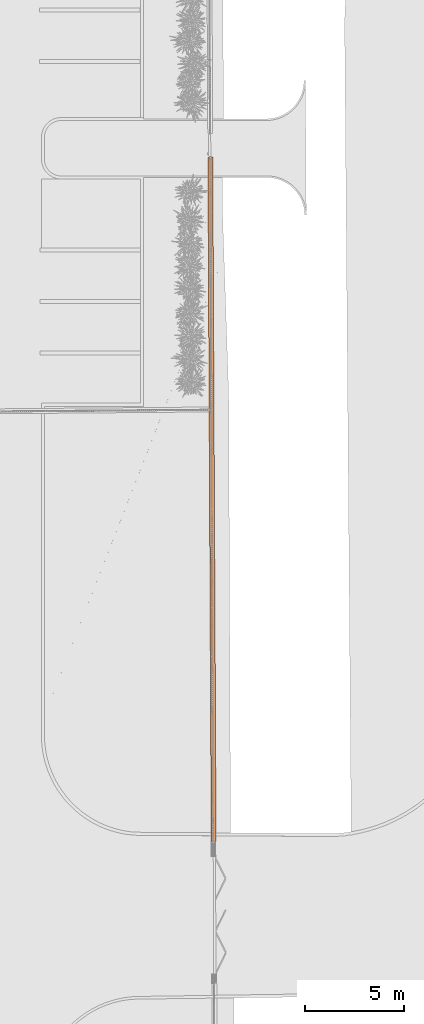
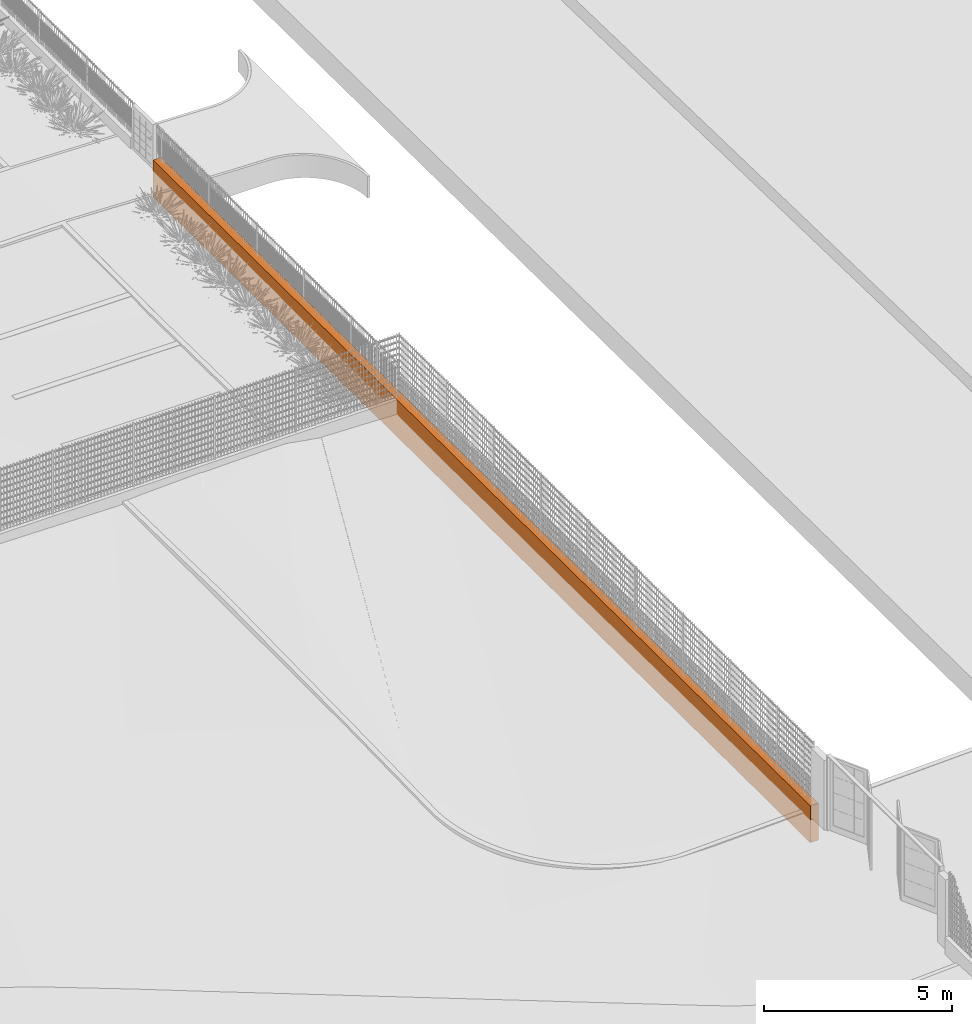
# One storey, part 16 of 1809: 1 proxy.
"""IFC2X3 building model written with IfcOpenShell, lengths in millimetres."""

import ifcopenshell
import ifcopenshell.guid

model = None  # the IFC model being written
_history = None  # IfcOwnerHistory: only IFC2X3 demands one
_inside = {}  # id of a spatial element -> (the spatial element, [elements in it])
_under = {}  # id of a project, library or spatial element -> (it, [spatial elements below it])
_declared = {}  # id of a project -> (the project, [libraries it declares])
_typed = {}  # id of a type object -> (the type object, [elements of that type])
_made_of = {}  # id of a material, layer set ... -> (it, [elements and type objects made of it])


def new_model(schema):
    """Start an empty IFC model of exactly this schema.

    Asked for "IFC4X3", IfcOpenShell would pick the latest addendum, in which some entities
    have other attributes; the version numbers below select the first issue.
    IFC2X3 requires an IfcOwnerHistory on every rooted entity: one is made here for all.
    """
    global model, _history
    if schema == "IFC4X3":
        model = ifcopenshell.file(schema_version=(4, 3, 0, 0))
    else:
        model = ifcopenshell.file(schema=schema)
    _inside.clear()
    _under.clear()
    _declared.clear()
    _typed.clear()
    _made_of.clear()
    _history = None
    if model.schema == "IFC2X3":
        org = make("IfcOrganization", Name="unknown")
        user = make(
            "IfcPersonAndOrganization",
            ThePerson=make("IfcPerson", FamilyName="unknown"),
            TheOrganization=org,
        )
        app = make(
            "IfcApplication",
            ApplicationDeveloper=org,
            Version="unknown",
            ApplicationFullName="unknown",
            ApplicationIdentifier="unknown",
        )
        _history = make(
            "IfcOwnerHistory",
            OwningUser=user,
            OwningApplication=app,
            ChangeAction="ADDED",
            CreationDate=0,
        )
    return model


def make(cls, **values):
    """One entity of the class cls with the attributes given. An attribute that is None is left unset."""
    return model.create_entity(
        cls, **{name: value for name, value in values.items() if value is not None}
    )


def entity(cls, *values):
    """Any entity or typed value of the class cls, its attributes in the order of the schema. None: left unset."""
    e = model.create_entity(cls)
    for i, value in enumerate(values):
        if value is not None:
            e[i] = value
    return e


def rooted(cls, **values):
    """An entity with a GlobalId (a new one), such as an element, a storey or a relation."""
    return make(cls, GlobalId=ifcopenshell.guid.new(), OwnerHistory=_history, **values)


def si_unit(unit_type, name, prefix=None):
    """IfcSIUnit, for example si_unit("LENGTHUNIT", "METRE", prefix="MILLI")."""
    return make("IfcSIUnit", UnitType=unit_type, Prefix=prefix, Name=name)


def converted_unit(unit_type, name, factor, base, dimensions=None, offset=None):
    """IfcConversionBasedUnit, such as the inch: factor (a typed value) times the base unit."""
    return make(
        "IfcConversionBasedUnit"
        if offset is None
        else "IfcConversionBasedUnitWithOffset",
        ConversionOffset=offset,
        Dimensions=None
        if dimensions is None
        else entity("IfcDimensionalExponents", *dimensions),
        UnitType=unit_type,
        Name=name,
        ConversionFactor=make(
            "IfcMeasureWithUnit", ValueComponent=factor, UnitComponent=base
        ),
    )


def derived_unit(unit_type, elements):
    """IfcDerivedUnit: a product of units, each with its exponent."""
    return make(
        "IfcDerivedUnit",
        Elements=[
            make("IfcDerivedUnitElement", Unit=unit, Exponent=power)
            for unit, power in elements
        ],
        UnitType=unit_type,
    )


def money_unit(currency):
    """IfcMonetaryUnit."""
    return make("IfcMonetaryUnit", Currency=currency)


def assignment(units):
    """IfcUnitAssignment: the units of a project."""
    return None if units is None else make("IfcUnitAssignment", Units=units)


def point(xyz):
    """IfcCartesianPoint."""
    return None if xyz is None else make("IfcCartesianPoint", Coordinates=xyz)


def direction(xyz):
    """IfcDirection."""
    return None if xyz is None else make("IfcDirection", DirectionRatios=xyz)


def frame(location, z_axis=None, x_axis=None):
    """IfcAxis2Placement3D, a coordinate frame: its origin and axes. An axis left out is left unset."""
    return make(
        "IfcAxis2Placement3D",
        Location=point(location),
        Axis=direction(z_axis),
        RefDirection=direction(x_axis),
    )


def origin_with_axes():
    """The frame at (0, 0, 0) with the z axis (0, 0, 1) and the x axis (1, 0, 0) written out."""
    return frame((0.0, 0.0, 0.0), z_axis=(0.0, 0.0, 1.0), x_axis=(1.0, 0.0, 0.0))


def place(relative_to, where):
    """IfcLocalPlacement: puts the frame where relative to a parent placement (None: the world)."""
    return make(
        "IfcLocalPlacement", PlacementRelTo=relative_to, RelativePlacement=where
    )


def context(
    kind, dimensions, precision=None, world=None, true_north=None, identifier=None
):
    """IfcGeometricRepresentationContext, for example the 3D "Model" context."""
    return make(
        "IfcGeometricRepresentationContext",
        ContextIdentifier=identifier,
        ContextType=kind,
        CoordinateSpaceDimension=dimensions,
        Precision=precision,
        WorldCoordinateSystem=world,
        TrueNorth=true_north,
    )


def subcontext(parent, identifier, kind, view, scale=None):
    """IfcGeometricRepresentationSubContext, for example "Body" below "Model"."""
    return make(
        "IfcGeometricRepresentationSubContext",
        ContextIdentifier=identifier,
        ContextType=kind,
        ParentContext=parent,
        TargetScale=scale,
        TargetView=view,
    )


def project(units=None, contexts=None):
    """IfcProject with its units and contexts."""
    return rooted(
        "IfcProject",
        Name="project",
        RepresentationContexts=contexts,
        UnitsInContext=assignment(units),
    )


def spatial(cls, under=None, at=None, **own):
    """A site, building, storey or space (cls), placed at a placement, below another one or the project."""
    s = rooted(cls, ObjectPlacement=at, **own)
    if under is not None:
        _under.setdefault(under.id(), (under, []))[1].append(s)
    return s


def polyline(points):
    """IfcPolyline through the points."""
    return make("IfcPolyline", Points=[point(p) for p in points])


def outline(outer, holes=None, kind="AREA"):
    """IfcArbitraryClosedProfileDef: a profile drawn as a closed curve; with holes, ...WithVoids."""
    if holes is None:
        return make("IfcArbitraryClosedProfileDef", ProfileType=kind, OuterCurve=outer)
    return make(
        "IfcArbitraryProfileDefWithVoids",
        ProfileType=kind,
        OuterCurve=outer,
        InnerCurves=holes,
    )


def extrude(swept, where, along, depth):
    """IfcExtrudedAreaSolid: the profile swept, set in the frame where, extruded along a direction by depth."""
    return make(
        "IfcExtrudedAreaSolid",
        SweptArea=swept,
        Position=where,
        ExtrudedDirection=direction(along),
        Depth=depth,
    )


def shape(context_of_items, identifier, shape_type, items):
    """IfcShapeRepresentation: the items that make up one representation, for example the "Body"."""
    return make(
        "IfcShapeRepresentation",
        ContextOfItems=context_of_items,
        RepresentationIdentifier=identifier,
        RepresentationType=shape_type,
        Items=items,
    )


def material(Name=None, Category=None):
    """IfcMaterial."""
    return make("IfcMaterial", Name=Name, Category=Category)


def made_of(thing, what):
    """Note that an element or type object is made of a material, layer set ...; save() writes the relation."""
    if what is not None:
        _made_of.setdefault(what.id(), (what, []))[1].append(thing)
    return thing


def type_object(cls, material=None, **own):
    """A type object (cls), such as IfcWallType, which elements share."""
    return made_of(rooted(cls, **own), material)


def element(
    cls,
    number,
    at=None,
    inside=None,
    cuts=None,
    type_object=None,
    material=None,
    context=None,
    identifier="Body",
    shape_type=None,
    held_by="IfcProductDefinitionShape",
    body=None,
    shapes=None,
    **own,
):
    """One element of the class cls, such as IfcWall. Its Tag is "e" and its number.

    at: its placement. inside: the storey or other place that contains it. cuts: it is an
    opening in that element (IfcRelVoidsElement). A single representation is given by context,
    identifier, shape_type and body (its items); several are given by shapes. held_by: the class
    of the entity that holds the representations. save() writes the other relations.
    """
    e = rooted(cls, Tag="e%d" % number, ObjectPlacement=at, **own)
    if body is not None:
        shapes = [shape(context, identifier, shape_type, body)]
    if shapes is not None:
        e.Representation = make(held_by, Representations=shapes)
    if inside is not None:
        _inside.setdefault(inside.id(), (inside, []))[1].append(e)
    if cuts is not None:
        rooted(
            "IfcRelVoidsElement", RelatingBuildingElement=cuts, RelatedOpeningElement=e
        )
    if type_object is not None:
        _typed.setdefault(type_object.id(), (type_object, []))[1].append(e)
    return made_of(e, material)


def aggregate(whole, parts):
    """IfcRelAggregates: a whole, such as a stair, and the parts it consists of."""
    return rooted("IfcRelAggregates", RelatingObject=whole, RelatedObjects=parts)


def save(model, path):
    """Write the relations noted so far, then the file.

    IfcRelAggregates (storeys below a building ...), IfcRelContainedInSpatialStructure (elements
    in a storey), IfcRelDefinesByType, IfcRelAssociatesMaterial and IfcRelDeclares: one each for
    every whole, place, type object, material and project.
    """
    for whole, parts in _under.values():
        aggregate(whole, parts)
    for where, things in _inside.values():
        rooted(
            "IfcRelContainedInSpatialStructure",
            RelatedElements=things,
            RelatingStructure=where,
        )
    for kind, things in _typed.values():
        rooted("IfcRelDefinesByType", RelatedObjects=things, RelatingType=kind)
    for what, things in _made_of.values():
        rooted("IfcRelAssociatesMaterial", RelatedObjects=things, RelatingMaterial=what)
    for by, libraries in _declared.values():
        rooted("IfcRelDeclares", RelatingContext=by, RelatedDefinitions=libraries)
    model.write(path)


model = new_model("IFC2X3")

# Units and contexts
model_context = context("Model", 3, precision=0.01, world=origin_with_axes(), true_north=direction((0.0, 1.0)))
body_context = subcontext(model_context, "Body", "Model", "MODEL_VIEW")
ifc_project = project(units=[si_unit("LENGTHUNIT", "METRE", prefix="MILLI"), si_unit("AREAUNIT", "SQUARE_METRE"), si_unit("VOLUMEUNIT", "CUBIC_METRE"), converted_unit("PLANEANGLEUNIT", "DEGREE", entity("IfcPlaneAngleMeasure", 0.0174532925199), si_unit("PLANEANGLEUNIT", "RADIAN"), dimensions=[0, 0, 0, 0, 0, 0, 0]), si_unit("SOLIDANGLEUNIT", "STERADIAN"), money_unit("EUR"), converted_unit("TIMEUNIT", "Year", entity("IfcTimeMeasure", 31556926.0), si_unit("TIMEUNIT", "SECOND"), dimensions=[0, 0, 1, 0, 0, 0, 0]), si_unit("MASSUNIT", "GRAM", prefix="KILO"), si_unit("THERMODYNAMICTEMPERATUREUNIT", "DEGREE_CELSIUS"), si_unit("LUMINOUSINTENSITYUNIT", "LUMEN"), si_unit("ENERGYUNIT", "JOULE", prefix="MEGA"), derived_unit("THERMALCONDUCTANCEUNIT", [(si_unit("POWERUNIT", "WATT"), 1), (si_unit("LENGTHUNIT", "METRE"), -1), (si_unit("THERMODYNAMICTEMPERATUREUNIT", "KELVIN"), -1)]), derived_unit("SPECIFICHEATCAPACITYUNIT", [(si_unit("ENERGYUNIT", "JOULE"), 1), (si_unit("MASSUNIT", "GRAM", prefix="KILO"), -1), (si_unit("THERMODYNAMICTEMPERATUREUNIT", "KELVIN"), -1)]), derived_unit("MASSDENSITYUNIT", [(si_unit("MASSUNIT", "GRAM", prefix="KILO"), 1), (si_unit("VOLUMEUNIT", "CUBIC_METRE"), -1)])], contexts=[model_context])

# Site, building, storey
site_placement = place(None, origin_with_axes())
site = spatial("IfcSite", under=ifc_project, at=site_placement, Name="Politse- ja Piirivalveameti ning Päästeameti ühishoone", CompositionType="ELEMENT")
building_placement = place(site_placement, origin_with_axes())
building = spatial("IfcBuilding", under=site, at=building_placement, Name="Politse- ja Piirivalveameti ning Päästeameti ühishoone", CompositionType="ELEMENT")
storey_placement = place(building_placement, origin_with_axes())
storey = spatial("IfcBuildingStorey", under=building, at=storey_placement, Name="Esimene korrus", CompositionType="ELEMENT", Elevation=0.0)

# Proxy
ifc_material = material(Name="SKR-04_Puitplaat")
building_element_proxy_type = type_object("IfcBuildingElementProxyType", Name="SKR-04_Puitplaat 1200", PredefinedType="NOTDEFINED")
proxy_placement = place(storey_placement, frame((89198.2652714, -22128.4948932, 177.658425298), z_axis=(0.0, 0.0, 1.0), x_axis=(1.0, 0.0, 0.0)))
element("IfcBuildingElementProxy", 1, at=proxy_placement, inside=storey, type_object=building_element_proxy_type, material=ifc_material, Name="PIIRDEAED", context=body_context, shape_type="SweptSolid", body=[
    extrude(outline(polyline([(0.0, 0.0), (249.987049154, 3.95824750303), (83.5127409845, 34681.0382833), (-165.93945042, 34669.143904), (0.0, 0.0)])), frame((0.0, 0.0, -1200.0), z_axis=(0.0, 0.0, 1.0), x_axis=(1.0, 0.0, 0.0)), (0.0, 0.0, 1.0), 1200.0),
])

save(model, "model.ifc")
